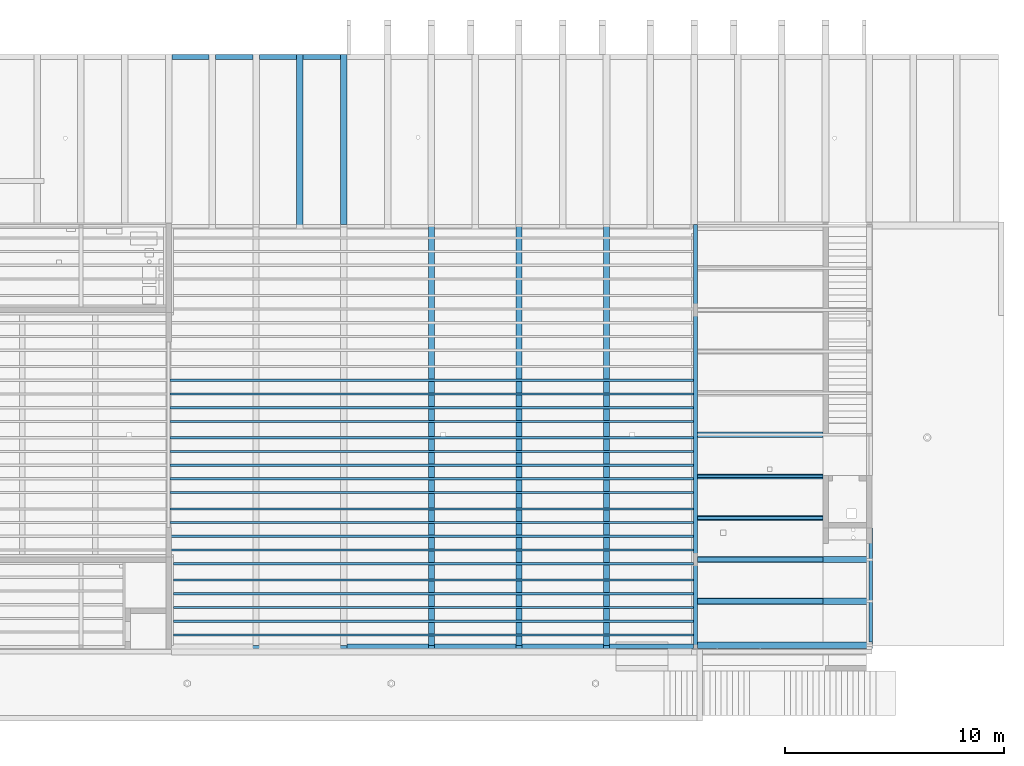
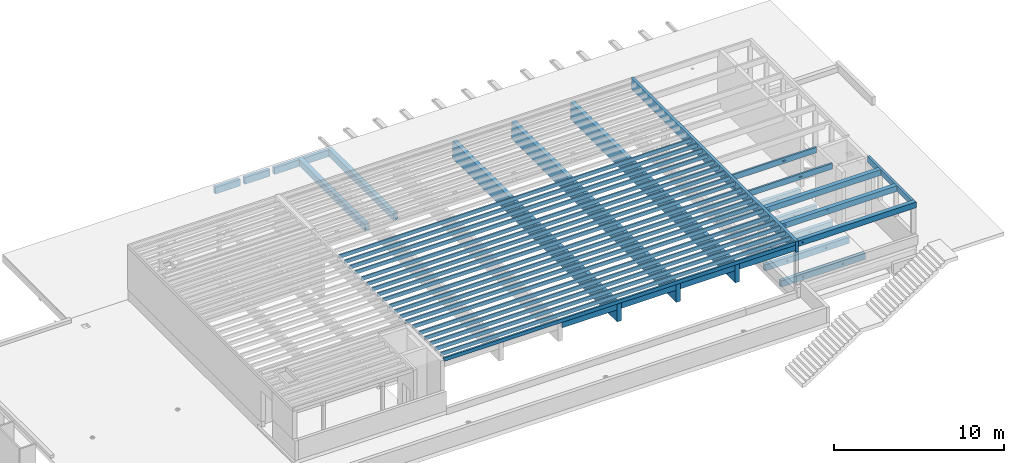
# One storey, part 3 of 14: 45 beams.
"""IFC2X3 building model written with IfcOpenShell, lengths in metres."""

from ifc_helpers import new_model, entity, si_unit, converted_unit, direction, frame, frame_2d, origin, origin_2d_with_axis, place, context, subcontext, project, spatial, rectangle, circle, extrude, boolean, material, type_object, element, save


model = new_model("IFC2X3")

# Units and contexts
model_context = context("Model", 3, precision=1e-05, world=frame((30.086303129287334, 2.687674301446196, 462.0)), true_north=direction((0.19008937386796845, 0.9817667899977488)))
body_context = subcontext(model_context, "Body", "Model", "MODEL_VIEW")
ifc_project = project(units=[si_unit("LENGTHUNIT", "METRE"), si_unit("AREAUNIT", "SQUARE_METRE"), converted_unit("PLANEANGLEUNIT", "DEGREE", entity("IfcPlaneAngleMeasure", 0.017453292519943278), si_unit("PLANEANGLEUNIT", "RADIAN"), dimensions=[0, 0, 0, 0, 0, 0, 0]), si_unit("VOLUMEUNIT", "CUBIC_METRE")], contexts=[model_context])

# Site, building, storey
site_placement = place(None, origin())
site = spatial("IfcSite", under=ifc_project, at=site_placement, Name="Default", CompositionType="ELEMENT")
building_placement = place(site_placement, origin())
building = spatial("IfcBuilding", under=site, at=building_placement, CompositionType="ELEMENT")
storey_placement = place(building_placement, origin())
storey = spatial("IfcBuildingStorey", under=building, at=storey_placement, Name="FB_E00_OKFB", CompositionType="ELEMENT", Elevation=0.0)

# Beams
ifc_material_1 = material(Name="WS_TIMBER_GLT_0°")
beam_type_1 = type_object("IfcBeamType", Name="WS_TBM_GLT:TBM_GLT_280/1280", PredefinedType="BEAM")
beam_1_placement = place(storey_placement, frame((76.1053391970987, -1.334602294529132, 7.779999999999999), z_axis=(0.0, 0.0, 1.0), x_axis=(0.0, -1.0, 0.0)))
element("IfcBeam", 1, at=beam_1_placement, inside=storey, type_object=beam_type_1, material=ifc_material_1, Name="WS_TBM_GLT:TBM_GLT_280/1280", ObjectType="WS_TBM_GLT:TBM_GLT_280/1280", context=body_context, shape_type="SweptSolid", body=[
    boolean("DIFFERENCE", extrude(rectangle(XDim=1.2800000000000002, YDim=0.279999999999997, at=frame_2d((-4.3298697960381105e-15, 5.551115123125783e-16), x_axis=(0.0, 1.0))), frame((-0.0999999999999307, 0.0, -0.6400000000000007), z_axis=(1.0, 0.0, 0.0), x_axis=(0.0, 1.0, 0.0)), (0.0, 0.0, 1.0), 19.350049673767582), extrude(circle(Radius=0.059999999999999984, at=frame_2d((0.0, 3.573461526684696e-14), x_axis=(1.0, 0.0))), frame((11.065049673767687, -0.1399999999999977, -0.30999999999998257), z_axis=(0.0, 1.0, 0.0), x_axis=(1.0, 0.0, 0.0)), (0.0, 0.0, 1.0), 0.279999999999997)),
])
beam_2_placement = place(storey_placement, frame((80.10533919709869, -1.3346022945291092, 7.779999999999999), z_axis=(0.0, 0.0, 1.0), x_axis=(0.0, -1.0, 0.0)))
element("IfcBeam", 2, at=beam_2_placement, inside=storey, type_object=beam_type_1, material=ifc_material_1, Name="WS_TBM_GLT:TBM_GLT_280/1280", ObjectType="WS_TBM_GLT:TBM_GLT_280/1280", context=body_context, shape_type="SweptSolid", body=[
    boolean("DIFFERENCE", extrude(rectangle(XDim=1.2800000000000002, YDim=0.28000000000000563, at=frame_2d((0.0, 5.551115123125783e-16), x_axis=(0.0, 1.0))), frame((-0.0999999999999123, 0.0, -0.6400000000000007), z_axis=(1.0, 0.0, 0.0), x_axis=(0.0, 1.0, 0.0)), (0.0, 0.0, 1.0), 19.35004967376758), extrude(circle(Radius=0.059999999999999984, at=frame_2d((0.0, 1.0828671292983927e-15), x_axis=(1.0, 0.0))), frame((11.065049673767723, 0.14000000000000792, -0.30999999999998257), z_axis=(0.0, -1.0, 0.0), x_axis=(1.0, 0.0, 0.0)), (0.0, 0.0, 1.0), 0.28000000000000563)),
])
beam_3_placement = place(storey_placement, frame((72.10533919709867, -1.33460229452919, 7.779999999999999), z_axis=(0.0, 0.0, 1.0), x_axis=(0.0, -1.0, 0.0)))
element("IfcBeam", 3, at=beam_3_placement, inside=storey, type_object=beam_type_1, material=ifc_material_1, Name="WS_TBM_GLT:TBM_GLT_280/1280", ObjectType="WS_TBM_GLT:TBM_GLT_280/1280", context=body_context, shape_type="SweptSolid", body=[
    boolean("DIFFERENCE", extrude(rectangle(XDim=1.2800000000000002, YDim=0.279999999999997, at=frame_2d((4.3298697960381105e-15, 5.551115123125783e-16), x_axis=(0.0, 1.0))), frame((-0.09999999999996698, 0.0, -0.6400000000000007), z_axis=(1.0, 0.0, 0.0), x_axis=(0.0, 1.0, 0.0)), (0.0, 0.0, 1.0), 19.35004967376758), extrude(circle(Radius=0.059999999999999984, at=frame_2d((0.0, 1.0828671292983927e-15), x_axis=(1.0, 0.0))), frame((9.5000459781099, 0.13999999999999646, -0.30999999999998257), z_axis=(0.0, -1.0, 0.0), x_axis=(1.0, 0.0, 0.0)), (0.0, 0.0, 1.0), 0.279999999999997)),
])
beam_type_2 = type_object("IfcBeamType", Name="WS_TBM_GLT:TBM_GLT_300/480", PredefinedType="BEAM")
beam_4_placement = place(storey_placement, frame((68.10533735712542, 6.420351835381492, 3.935), z_axis=(0.0, 0.0, 1.0), x_axis=(0.0, -1.0, 0.0)))
element("IfcBeam", 4, at=beam_4_placement, inside=storey, type_object=beam_type_2, material=ifc_material_1, Name="WS_TBM_GLT:TBM_GLT_300/480", ObjectType="WS_TBM_GLT:TBM_GLT_300/480", context=body_context, shape_type="SweptSolid", body=[
    extrude(rectangle(XDim=0.4799999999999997, YDim=0.3000000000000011, at=frame_2d((2.7755575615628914e-16, 0.0), x_axis=(1.0, 0.0))), frame((-0.10999999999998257, 0.0, -0.23999999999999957), z_axis=(1.0, 0.0, 0.0), x_axis=(0.0, 0.0, -1.0)), (0.0, 0.0, 1.0), 7.764954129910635),
])
beam_5_placement = place(storey_placement, frame((66.1053387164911, 6.4203518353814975, 3.935), z_axis=(0.0, 0.0, 1.0), x_axis=(0.0, -1.0, 0.0)))
element("IfcBeam", 5, at=beam_5_placement, inside=storey, type_object=beam_type_2, material=ifc_material_1, Name="WS_TBM_GLT:TBM_GLT_300/480", ObjectType="WS_TBM_GLT:TBM_GLT_300/480", context=body_context, shape_type="SweptSolid", body=[
    extrude(rectangle(XDim=0.4799999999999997, YDim=0.3000000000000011, at=frame_2d((2.7755575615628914e-16, 0.0), x_axis=(1.0, 0.0))), frame((-0.10999999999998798, 0.0, -0.23999999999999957), z_axis=(1.0, 0.0, 0.0), x_axis=(0.0, 0.0, -1.0)), (0.0, 0.0, 1.0), 7.9249541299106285),
])
beam_type_3 = type_object("IfcBeamType", Name="WS_TBM_GLT:TBM_GLT_220/480", PredefinedType="BEAM")
beam_6_placement = place(storey_placement, frame((60.10533735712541, 6.420351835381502, 3.935)))
element("IfcBeam", 6, at=beam_6_placement, inside=storey, type_object=beam_type_3, material=ifc_material_1, Name="WS_TBM_GLT:TBM_GLT_220/480", ObjectType="WS_TBM_GLT:TBM_GLT_220/480", context=body_context, shape_type="SweptSolid", body=[
    extrude(rectangle(XDim=0.47999999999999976, YDim=0.2199999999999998, at=frame_2d((2.636779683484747e-16, 4.3298697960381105e-15), x_axis=(1.0, 0.0))), frame((0.1500000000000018, 0.0, -0.23999999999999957), z_axis=(1.0, 0.0, 0.0), x_axis=(0.0, 0.0, -1.0)), (0.0, 0.0, 1.0), 1.7000013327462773),
])
beam_7_placement = place(storey_placement, frame((62.105338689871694, 6.420351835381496, 3.935)))
element("IfcBeam", 7, at=beam_7_placement, inside=storey, type_object=beam_type_3, material=ifc_material_1, Name="WS_TBM_GLT:TBM_GLT_220/480", ObjectType="WS_TBM_GLT:TBM_GLT_220/480", context=body_context, shape_type="SweptSolid", body=[
    extrude(rectangle(XDim=0.47999999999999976, YDim=0.2199999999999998, at=frame_2d((2.636779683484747e-16, 4.3298697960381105e-15), x_axis=(1.0, 0.0))), frame((0.1500000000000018, 0.0, -0.23999999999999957), z_axis=(1.0, 0.0, 0.0), x_axis=(0.0, 0.0, -1.0)), (0.0, 0.0, 1.0), 1.699998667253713),
])
beam_8_placement = place(storey_placement, frame((64.10533735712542, 6.420351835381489, 3.935)))
element("IfcBeam", 8, at=beam_8_placement, inside=storey, type_object=beam_type_3, material=ifc_material_1, Name="WS_TBM_GLT:TBM_GLT_220/480", ObjectType="WS_TBM_GLT:TBM_GLT_220/480", context=body_context, shape_type="SweptSolid", body=[
    extrude(rectangle(XDim=0.47999999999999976, YDim=0.2199999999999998, at=frame_2d((2.636779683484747e-16, 4.3298697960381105e-15), x_axis=(1.0, 0.0))), frame((0.1500000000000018, 0.0, -0.23999999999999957), z_axis=(1.0, 0.0, 0.0), x_axis=(0.0, 0.0, -1.0)), (0.0, 0.0, 1.0), 1.700001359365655),
])
beam_9_placement = place(storey_placement, frame((66.1053387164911, 6.420351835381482, 3.935)))
element("IfcBeam", 9, at=beam_9_placement, inside=storey, type_object=beam_type_3, material=ifc_material_1, Name="WS_TBM_GLT:TBM_GLT_220/480", ObjectType="WS_TBM_GLT:TBM_GLT_220/480", context=body_context, shape_type="SweptSolid", body=[
    extrude(rectangle(XDim=0.47999999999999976, YDim=0.2199999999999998, at=frame_2d((2.636779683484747e-16, 4.3298697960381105e-15), x_axis=(1.0, 0.0))), frame((0.1500000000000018, 0.0, -0.23999999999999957), z_axis=(1.0, 0.0, 0.0), x_axis=(0.0, 0.0, -1.0)), (0.0, 0.0, 1.0), 1.6999986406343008),
])
beam_type_4 = type_object("IfcBeamType", Name="WS_TBM_GLT:TBM_GLT_240/440", PredefinedType="BEAM")
beam_10_placement = place(storey_placement, frame((90.10533691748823, -10.834648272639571, 3.8950000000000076), z_axis=(0.0, 0.0, 1.0), x_axis=(-1.0, 0.0, 0.0)))
element("IfcBeam", 10, at=beam_10_placement, inside=storey, type_object=beam_type_4, material=ifc_material_1, Name="WS_TBM_GLT:TBM_GLT_240/440", ObjectType="WS_TBM_GLT:TBM_GLT_240/440", context=body_context, shape_type="SweptSolid", body=[
    boolean("DIFFERENCE", boolean("DIFFERENCE", extrude(rectangle(XDim=0.4399999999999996, YDim=0.24000000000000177, at=frame_2d((-9.749145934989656e-15, 5.412337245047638e-16), x_axis=(0.0, 1.0))), frame((0.12499974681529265, 0.0, -0.22000000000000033), z_axis=(1.0, 0.0, 0.0), x_axis=(0.0, 1.0, 0.0)), (0.0, 0.0, 1.0), 5.724997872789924), extrude(rectangle(XDim=0.1, YDim=0.0999999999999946, at=frame_2d((8.659739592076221e-15, 0.0), x_axis=(0.0, 1.0))), frame((4.335938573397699, 0.12000000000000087, -0.22000000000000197), z_axis=(0.0, -1.0, 0.0), x_axis=(-1.0, 0.0, 0.0)), (0.0, 0.0, 1.0), 0.23999999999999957)), extrude(rectangle(XDim=0.1, YDim=0.0999999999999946, at=frame_2d((-8.659739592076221e-15, 0.0), x_axis=(0.0, 1.0))), frame((1.6777916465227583, 0.12000000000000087, -0.22000000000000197), z_axis=(0.0, -1.0, 0.0), x_axis=(-1.0, 0.0, 0.0)), (0.0, 0.0, 1.0), 0.23999999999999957)),
])
beam_11_placement = place(storey_placement, frame((90.10533691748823, -12.734648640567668, 3.8950000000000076), z_axis=(0.0, 0.0, 1.0), x_axis=(-1.0, 0.0, 0.0)))
element("IfcBeam", 11, at=beam_11_placement, inside=storey, type_object=beam_type_4, material=ifc_material_1, Name="WS_TBM_GLT:TBM_GLT_240/440", ObjectType="WS_TBM_GLT:TBM_GLT_240/440", context=body_context, shape_type="SweptSolid", body=[
    boolean("DIFFERENCE", boolean("DIFFERENCE", extrude(rectangle(XDim=0.4399999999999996, YDim=0.24000000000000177, at=frame_2d((-9.749145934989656e-15, 5.412337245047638e-16), x_axis=(0.0, 1.0))), frame((0.12499976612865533, 0.0, -0.22000000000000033), z_axis=(1.0, 0.0, 0.0), x_axis=(0.0, 1.0, 0.0)), (0.0, 0.0, 1.0), 5.724997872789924), extrude(rectangle(XDim=0.1, YDim=0.0999999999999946, at=frame_2d((8.659739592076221e-15, 0.0), x_axis=(0.0, 1.0))), frame((4.335938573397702, 0.12000000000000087, -0.22000000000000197), z_axis=(0.0, -1.0, 0.0), x_axis=(-1.0, 0.0, 0.0)), (0.0, 0.0, 1.0), 0.23999999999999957)), extrude(rectangle(XDim=0.1, YDim=0.0999999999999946, at=frame_2d((-8.659739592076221e-15, 0.0), x_axis=(0.0, 1.0))), frame((1.6777916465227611, 0.12000000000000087, -0.22000000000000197), z_axis=(0.0, -1.0, 0.0), x_axis=(-1.0, 0.0, 0.0)), (0.0, 0.0, 1.0), 0.23999999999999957)),
])
beam_12_placement = place(storey_placement, frame((90.10533691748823, -14.634649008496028, 3.8950000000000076), z_axis=(0.0, 0.0, 1.0), x_axis=(-1.0, 0.0, 0.0)))
element("IfcBeam", 12, at=beam_12_placement, inside=storey, type_object=beam_type_4, material=ifc_material_1, Name="WS_TBM_GLT:TBM_GLT_240/440", ObjectType="WS_TBM_GLT:TBM_GLT_240/440", context=body_context, shape_type="SweptSolid", body=[
    boolean("DIFFERENCE", boolean("DIFFERENCE", extrude(rectangle(XDim=0.4399999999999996, YDim=0.24000000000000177, at=frame_2d((-9.749145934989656e-15, 5.412337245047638e-16), x_axis=(0.0, 1.0))), frame((0.12499978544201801, 0.0, -0.22000000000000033), z_axis=(1.0, 0.0, 0.0), x_axis=(0.0, 1.0, 0.0)), (0.0, 0.0, 1.0), 5.724997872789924), extrude(rectangle(XDim=0.1, YDim=0.0999999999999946, at=frame_2d((8.659739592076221e-15, -2.706168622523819e-16), x_axis=(0.0, 1.0))), frame((4.335938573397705, 0.12000000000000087, -0.22000000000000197), z_axis=(0.0, -1.0, 0.0), x_axis=(-1.0, 0.0, 0.0)), (0.0, 0.0, 1.0), 0.23999999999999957)), extrude(rectangle(XDim=0.1, YDim=0.0999999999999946, at=frame_2d((-8.659739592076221e-15, 0.0), x_axis=(0.0, 1.0))), frame((1.6777916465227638, 0.12000000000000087, -0.22000000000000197), z_axis=(0.0, -1.0, 0.0), x_axis=(-1.0, 0.0, 0.0)), (0.0, 0.0, 1.0), 0.23999999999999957)),
])
beam_13_placement = place(storey_placement, frame((90.10533691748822, -16.53464801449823, 3.8950000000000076), z_axis=(0.0, 0.0, 1.0), x_axis=(-1.0, 0.0, 0.0)))
element("IfcBeam", 13, at=beam_13_placement, inside=storey, type_object=beam_type_4, material=ifc_material_1, Name="WS_TBM_GLT:TBM_GLT_240/440", ObjectType="WS_TBM_GLT:TBM_GLT_240/440", context=body_context, shape_type="SweptSolid", body=[
    boolean("DIFFERENCE", boolean("DIFFERENCE", extrude(rectangle(XDim=0.44000000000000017, YDim=0.2399999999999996, at=frame_2d((-7.5842110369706e-15, 2.636779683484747e-16), x_axis=(0.0, 1.0))), frame((0.12499980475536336, 0.0, -0.22000000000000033), z_axis=(1.0, 0.0, 0.0), x_axis=(0.0, 1.0, 0.0)), (0.0, 0.0, 1.0), 5.724997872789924), extrude(rectangle(XDim=0.1, YDim=0.0999999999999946, at=frame_2d((8.659739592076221e-15, 0.0), x_axis=(0.0, 1.0))), frame((4.335938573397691, 0.12000000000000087, -0.22000000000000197), z_axis=(0.0, -1.0, 0.0), x_axis=(-1.0, 0.0, 0.0)), (0.0, 0.0, 1.0), 0.23999999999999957)), extrude(rectangle(XDim=0.1, YDim=0.0999999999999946, at=frame_2d((-8.659739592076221e-15, 0.0), x_axis=(0.0, 1.0))), frame((1.6777916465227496, 0.12000000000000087, -0.22000000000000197), z_axis=(0.0, -1.0, 0.0), x_axis=(-1.0, 0.0, 0.0)), (0.0, 0.0, 1.0), 0.23999999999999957)),
])
beam_14_placement = place(storey_placement, frame((90.10533691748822, -18.43464974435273, 3.8950000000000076), z_axis=(0.0, 0.0, 1.0), x_axis=(-1.0, 0.0, 0.0)))
element("IfcBeam", 14, at=beam_14_placement, inside=storey, type_object=beam_type_4, material=ifc_material_1, Name="WS_TBM_GLT:TBM_GLT_240/440", ObjectType="WS_TBM_GLT:TBM_GLT_240/440", context=body_context, shape_type="SweptSolid", body=[
    boolean("DIFFERENCE", boolean("DIFFERENCE", extrude(rectangle(XDim=0.44000000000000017, YDim=0.2399999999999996, at=frame_2d((-9.749145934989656e-15, 2.636779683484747e-16), x_axis=(0.0, 1.0))), frame((0.12499982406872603, 0.0, -0.22000000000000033), z_axis=(1.0, 0.0, 0.0), x_axis=(0.0, 1.0, 0.0)), (0.0, 0.0, 1.0), 5.724997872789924), extrude(rectangle(XDim=0.1, YDim=0.0999999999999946, at=frame_2d((-8.659739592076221e-15, 0.0), x_axis=(0.0, 1.0))), frame((4.335938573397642, 0.12000000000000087, -0.22000000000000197), z_axis=(0.0, -1.0, 0.0), x_axis=(-1.0, 0.0, 0.0)), (0.0, 0.0, 1.0), 0.23999999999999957)), extrude(rectangle(XDim=0.1, YDim=0.0999999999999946, at=frame_2d((8.659739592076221e-15, 0.0), x_axis=(0.0, 1.0))), frame((1.6777916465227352, 0.12000000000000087, -0.22000000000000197), z_axis=(0.0, -1.0, 0.0), x_axis=(-1.0, 0.0, 0.0)), (0.0, 0.0, 1.0), 0.23999999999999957)),
])
ifc_material_2 = material(Name="WS_TIMBER")
beam_type_5 = type_object("IfcBeamType", Name="WS_TBM_KVH:TBM_KVH_100/260", PredefinedType="BEAM")
beam_15_placement = place(storey_placement, frame((84.16533735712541, -8.347106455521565, 8.04), z_axis=(0.0, 0.0, 1.0), x_axis=(-1.0, 0.0, 0.0)))
element("IfcBeam", 15, at=beam_15_placement, inside=storey, type_object=beam_type_5, material=ifc_material_2, Name="WS_TBM_KVH:TBM_KVH_100/260", ObjectType="WS_TBM_KVH:TBM_KVH_100/260", context=body_context, shape_type="SweptSolid", body=[
    extrude(rectangle(XDim=0.26000000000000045, YDim=0.09999999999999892, at=frame_2d((5.412337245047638e-16, 7.688294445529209e-14), x_axis=(1.0, 0.0))), frame((0.09000000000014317, 0.0, -0.1299999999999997), z_axis=(1.0, 0.0, 0.0), x_axis=(0.0, 0.0, -1.0)), (0.0, 0.0, 1.0), 23.909999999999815),
])
beam_16_placement = place(storey_placement, frame((84.16533735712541, -8.972106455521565, 8.04), z_axis=(0.0, 0.0, 1.0), x_axis=(-1.0, 0.0, 0.0)))
element("IfcBeam", 16, at=beam_16_placement, inside=storey, type_object=beam_type_5, material=ifc_material_2, Name="WS_TBM_KVH:TBM_KVH_100/260", ObjectType="WS_TBM_KVH:TBM_KVH_100/260", context=body_context, shape_type="SweptSolid", body=[
    extrude(rectangle(XDim=0.26000000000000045, YDim=0.09999999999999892, at=frame_2d((5.412337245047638e-16, 7.796541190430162e-14), x_axis=(1.0, 0.0))), frame((0.09000000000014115, 0.0, -0.1299999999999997), z_axis=(1.0, 0.0, 0.0), x_axis=(0.0, 0.0, -1.0)), (0.0, 0.0, 1.0), 23.909999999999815),
])
beam_17_placement = place(storey_placement, frame((84.16533735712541, -9.597106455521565, 8.04), z_axis=(0.0, 0.0, 1.0), x_axis=(-1.0, 0.0, 0.0)))
element("IfcBeam", 17, at=beam_17_placement, inside=storey, type_object=beam_type_5, material=ifc_material_2, Name="WS_TBM_KVH:TBM_KVH_100/260", ObjectType="WS_TBM_KVH:TBM_KVH_100/260", context=body_context, shape_type="SweptSolid", body=[
    extrude(rectangle(XDim=0.26000000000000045, YDim=0.09999999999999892, at=frame_2d((5.412337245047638e-16, 7.796541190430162e-14), x_axis=(1.0, 0.0))), frame((0.09000000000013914, 0.0, -0.1299999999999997), z_axis=(1.0, 0.0, 0.0), x_axis=(0.0, 0.0, -1.0)), (0.0, 0.0, 1.0), 23.909999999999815),
])
beam_18_placement = place(storey_placement, frame((84.16533735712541, -10.222106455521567, 8.04), z_axis=(0.0, 0.0, 1.0), x_axis=(-1.0, 0.0, 0.0)))
element("IfcBeam", 18, at=beam_18_placement, inside=storey, type_object=beam_type_5, material=ifc_material_2, Name="WS_TBM_KVH:TBM_KVH_100/260", ObjectType="WS_TBM_KVH:TBM_KVH_100/260", context=body_context, shape_type="SweptSolid", body=[
    extrude(rectangle(XDim=0.26000000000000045, YDim=0.09999999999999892, at=frame_2d((5.412337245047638e-16, 7.796541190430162e-14), x_axis=(1.0, 0.0))), frame((0.09000000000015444, 0.0, -0.1299999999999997), z_axis=(1.0, 0.0, 0.0), x_axis=(0.0, 0.0, -1.0)), (0.0, 0.0, 1.0), 23.909999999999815),
])
beam_19_placement = place(storey_placement, frame((84.16533735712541, -10.972106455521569, 8.04), z_axis=(0.0, 0.0, 1.0), x_axis=(-1.0, 0.0, 0.0)))
element("IfcBeam", 19, at=beam_19_placement, inside=storey, type_object=beam_type_5, material=ifc_material_2, Name="WS_TBM_KVH:TBM_KVH_100/260", ObjectType="WS_TBM_KVH:TBM_KVH_100/260", context=body_context, shape_type="SweptSolid", body=[
    extrude(rectangle(XDim=0.26000000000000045, YDim=0.09999999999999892, at=frame_2d((5.412337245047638e-16, 7.796541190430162e-14), x_axis=(1.0, 0.0))), frame((0.0900000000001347, 0.0, -0.1299999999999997), z_axis=(1.0, 0.0, 0.0), x_axis=(0.0, 0.0, -1.0)), (0.0, 0.0, 1.0), 23.909999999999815),
])
beam_20_placement = place(storey_placement, frame((84.16533735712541, -11.597106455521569, 8.04), z_axis=(0.0, 0.0, 1.0), x_axis=(-1.0, 0.0, 0.0)))
element("IfcBeam", 20, at=beam_20_placement, inside=storey, type_object=beam_type_5, material=ifc_material_2, Name="WS_TBM_KVH:TBM_KVH_100/260", ObjectType="WS_TBM_KVH:TBM_KVH_100/260", context=body_context, shape_type="SweptSolid", body=[
    extrude(rectangle(XDim=0.26000000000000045, YDim=0.09999999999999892, at=frame_2d((5.412337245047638e-16, 7.796541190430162e-14), x_axis=(1.0, 0.0))), frame((0.09000000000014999, 0.0, -0.1299999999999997), z_axis=(1.0, 0.0, 0.0), x_axis=(0.0, 0.0, -1.0)), (0.0, 0.0, 1.0), 23.909999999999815),
])
beam_21_placement = place(storey_placement, frame((84.16533735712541, -12.22210645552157, 8.04), z_axis=(0.0, 0.0, 1.0), x_axis=(-1.0, 0.0, 0.0)))
element("IfcBeam", 21, at=beam_21_placement, inside=storey, type_object=beam_type_5, material=ifc_material_2, Name="WS_TBM_KVH:TBM_KVH_100/260", ObjectType="WS_TBM_KVH:TBM_KVH_100/260", context=body_context, shape_type="SweptSolid", body=[
    extrude(rectangle(XDim=0.26000000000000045, YDim=0.09999999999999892, at=frame_2d((5.412337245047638e-16, 7.796541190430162e-14), x_axis=(1.0, 0.0))), frame((0.09000000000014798, 0.0, -0.1299999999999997), z_axis=(1.0, 0.0, 0.0), x_axis=(0.0, 0.0, -1.0)), (0.0, 0.0, 1.0), 23.909999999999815),
])
beam_22_placement = place(storey_placement, frame((84.16533735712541, -12.84710645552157, 8.04), z_axis=(0.0, 0.0, 1.0), x_axis=(-1.0, 0.0, 0.0)))
element("IfcBeam", 22, at=beam_22_placement, inside=storey, type_object=beam_type_5, material=ifc_material_2, Name="WS_TBM_KVH:TBM_KVH_100/260", ObjectType="WS_TBM_KVH:TBM_KVH_100/260", context=body_context, shape_type="SweptSolid", body=[
    extrude(rectangle(XDim=0.26000000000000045, YDim=0.09999999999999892, at=frame_2d((5.412337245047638e-16, 7.796541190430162e-14), x_axis=(1.0, 0.0))), frame((0.09000000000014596, 0.0, -0.1299999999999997), z_axis=(1.0, 0.0, 0.0), x_axis=(0.0, 0.0, -1.0)), (0.0, 0.0, 1.0), 23.909999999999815),
])
beam_23_placement = place(storey_placement, frame((84.16533735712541, -13.47210645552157, 8.04), z_axis=(0.0, 0.0, 1.0), x_axis=(-1.0, 0.0, 0.0)))
element("IfcBeam", 23, at=beam_23_placement, inside=storey, type_object=beam_type_5, material=ifc_material_2, Name="WS_TBM_KVH:TBM_KVH_100/260", ObjectType="WS_TBM_KVH:TBM_KVH_100/260", context=body_context, shape_type="SweptSolid", body=[
    extrude(rectangle(XDim=0.26000000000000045, YDim=0.09999999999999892, at=frame_2d((5.412337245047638e-16, 7.796541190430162e-14), x_axis=(1.0, 0.0))), frame((0.09000000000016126, 0.0, -0.1299999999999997), z_axis=(1.0, 0.0, 0.0), x_axis=(0.0, 0.0, -1.0)), (0.0, 0.0, 1.0), 23.909999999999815),
])
beam_24_placement = place(storey_placement, frame((84.16533735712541, -14.222106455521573, 8.04), z_axis=(0.0, 0.0, 1.0), x_axis=(-1.0, 0.0, 0.0)))
element("IfcBeam", 24, at=beam_24_placement, inside=storey, type_object=beam_type_5, material=ifc_material_2, Name="WS_TBM_KVH:TBM_KVH_100/260", ObjectType="WS_TBM_KVH:TBM_KVH_100/260", context=body_context, shape_type="SweptSolid", body=[
    extrude(rectangle(XDim=0.26000000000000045, YDim=0.09999999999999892, at=frame_2d((5.412337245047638e-16, 7.796541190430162e-14), x_axis=(1.0, 0.0))), frame((0.09000000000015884, 0.0, -0.1299999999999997), z_axis=(1.0, 0.0, 0.0), x_axis=(0.0, 0.0, -1.0)), (0.0, 0.0, 1.0), 23.909999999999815),
])
beam_25_placement = place(storey_placement, frame((84.16533735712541, -14.847106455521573, 8.04), z_axis=(0.0, 0.0, 1.0), x_axis=(-1.0, 0.0, 0.0)))
element("IfcBeam", 25, at=beam_25_placement, inside=storey, type_object=beam_type_5, material=ifc_material_2, Name="WS_TBM_KVH:TBM_KVH_100/260", ObjectType="WS_TBM_KVH:TBM_KVH_100/260", context=body_context, shape_type="SweptSolid", body=[
    extrude(rectangle(XDim=0.26000000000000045, YDim=0.09999999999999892, at=frame_2d((5.412337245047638e-16, 7.796541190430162e-14), x_axis=(1.0, 0.0))), frame((0.09000000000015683, 0.0, -0.1299999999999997), z_axis=(1.0, 0.0, 0.0), x_axis=(0.0, 0.0, -1.0)), (0.0, 0.0, 1.0), 23.909999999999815),
])
beam_26_placement = place(storey_placement, frame((84.16533735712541, -15.472106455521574, 8.04), z_axis=(0.0, 0.0, 1.0), x_axis=(-1.0, 0.0, 0.0)))
element("IfcBeam", 26, at=beam_26_placement, inside=storey, type_object=beam_type_5, material=ifc_material_2, Name="WS_TBM_KVH:TBM_KVH_100/260", ObjectType="WS_TBM_KVH:TBM_KVH_100/260", context=body_context, shape_type="SweptSolid", body=[
    extrude(rectangle(XDim=0.26000000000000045, YDim=0.09999999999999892, at=frame_2d((5.412337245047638e-16, 7.580047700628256e-14), x_axis=(1.0, 0.0))), frame((0.09000000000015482, 0.0, -0.1299999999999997), z_axis=(1.0, 0.0, 0.0), x_axis=(0.0, 0.0, -1.0)), (0.0, 0.0, 1.0), 23.909999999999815),
])
beam_27_placement = place(storey_placement, frame((84.16533735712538, -16.097106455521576, 8.04), z_axis=(0.0, 0.0, 1.0), x_axis=(-1.0, 0.0, 0.0)))
element("IfcBeam", 27, at=beam_27_placement, inside=storey, type_object=beam_type_5, material=ifc_material_2, Name="WS_TBM_KVH:TBM_KVH_100/260", ObjectType="WS_TBM_KVH:TBM_KVH_100/260", context=body_context, shape_type="SweptSolid", body=[
    extrude(rectangle(XDim=0.26000000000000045, YDim=0.09999999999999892, at=frame_2d((5.412337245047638e-16, 7.796541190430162e-14), x_axis=(1.0, 0.0))), frame((0.09000000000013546, 0.0, -0.1299999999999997), z_axis=(1.0, 0.0, 0.0), x_axis=(0.0, 0.0, -1.0)), (0.0, 0.0, 1.0), 23.909999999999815),
])
beam_28_placement = place(storey_placement, frame((84.16533735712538, -19.972106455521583, 8.04), z_axis=(0.0, 0.0, 1.0), x_axis=(-1.0, 0.0, 0.0)))
element("IfcBeam", 28, at=beam_28_placement, inside=storey, type_object=beam_type_5, material=ifc_material_2, Name="WS_TBM_KVH:TBM_KVH_100/260", ObjectType="WS_TBM_KVH:TBM_KVH_100/260", context=body_context, shape_type="SweptSolid", body=[
    extrude(rectangle(XDim=0.26000000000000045, YDim=0.10000000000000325, at=frame_2d((5.412337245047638e-16, 7.796541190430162e-14), x_axis=(1.0, 0.0))), frame((0.09000000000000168, 0.0, -0.1299999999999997), z_axis=(1.0, 0.0, 0.0), x_axis=(0.0, 0.0, -1.0)), (0.0, 0.0, 1.0), 23.744999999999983),
])
beam_29_placement = place(storey_placement, frame((84.16533735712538, -19.347106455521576, 8.04), z_axis=(0.0, 0.0, 1.0), x_axis=(-1.0, 0.0, 0.0)))
element("IfcBeam", 29, at=beam_29_placement, inside=storey, type_object=beam_type_5, material=ifc_material_2, Name="WS_TBM_KVH:TBM_KVH_100/260", ObjectType="WS_TBM_KVH:TBM_KVH_100/260", context=body_context, shape_type="SweptSolid", body=[
    extrude(rectangle(XDim=0.26000000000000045, YDim=0.09999999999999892, at=frame_2d((5.412337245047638e-16, 7.580047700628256e-14), x_axis=(1.0, 0.0))), frame((0.09000000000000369, 0.0, -0.1299999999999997), z_axis=(1.0, 0.0, 0.0), x_axis=(0.0, 0.0, -1.0)), (0.0, 0.0, 1.0), 23.744999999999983),
])
beam_30_placement = place(storey_placement, frame((84.16533735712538, -18.722106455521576, 8.04), z_axis=(0.0, 0.0, 1.0), x_axis=(-1.0, 0.0, 0.0)))
element("IfcBeam", 30, at=beam_30_placement, inside=storey, type_object=beam_type_5, material=ifc_material_2, Name="WS_TBM_KVH:TBM_KVH_100/260", ObjectType="WS_TBM_KVH:TBM_KVH_100/260", context=body_context, shape_type="SweptSolid", body=[
    extrude(rectangle(XDim=0.26000000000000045, YDim=0.09999999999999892, at=frame_2d((5.412337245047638e-16, 7.796541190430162e-14), x_axis=(1.0, 0.0))), frame((0.08999999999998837, 0.0, -0.1299999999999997), z_axis=(1.0, 0.0, 0.0), x_axis=(0.0, 0.0, -1.0)), (0.0, 0.0, 1.0), 23.744999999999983),
])
beam_31_placement = place(storey_placement, frame((84.16533735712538, -18.097106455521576, 8.04), z_axis=(0.0, 0.0, 1.0), x_axis=(-1.0, 0.0, 0.0)))
element("IfcBeam", 31, at=beam_31_placement, inside=storey, type_object=beam_type_5, material=ifc_material_2, Name="WS_TBM_KVH:TBM_KVH_100/260", ObjectType="WS_TBM_KVH:TBM_KVH_100/260", context=body_context, shape_type="SweptSolid", body=[
    extrude(rectangle(XDim=0.26000000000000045, YDim=0.09999999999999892, at=frame_2d((5.412337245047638e-16, 7.580047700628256e-14), x_axis=(1.0, 0.0))), frame((0.08999999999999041, 0.0, -0.1299999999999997), z_axis=(1.0, 0.0, 0.0), x_axis=(0.0, 0.0, -1.0)), (0.0, 0.0, 1.0), 23.744999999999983),
])
beam_32_placement = place(storey_placement, frame((84.16533735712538, -17.472106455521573, 8.04), z_axis=(0.0, 0.0, 1.0), x_axis=(-1.0, 0.0, 0.0)))
element("IfcBeam", 32, at=beam_32_placement, inside=storey, type_object=beam_type_5, material=ifc_material_2, Name="WS_TBM_KVH:TBM_KVH_100/260", ObjectType="WS_TBM_KVH:TBM_KVH_100/260", context=body_context, shape_type="SweptSolid", body=[
    extrude(rectangle(XDim=0.26000000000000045, YDim=0.09999999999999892, at=frame_2d((5.412337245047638e-16, 7.796541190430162e-14), x_axis=(1.0, 0.0))), frame((0.08999999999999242, 0.0, -0.1299999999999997), z_axis=(1.0, 0.0, 0.0), x_axis=(0.0, 0.0, -1.0)), (0.0, 0.0, 1.0), 23.744999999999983),
])
beam_33_placement = place(storey_placement, frame((84.16533735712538, -16.722106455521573, 8.04), z_axis=(0.0, 0.0, 1.0), x_axis=(-1.0, 0.0, 0.0)))
element("IfcBeam", 33, at=beam_33_placement, inside=storey, type_object=beam_type_5, material=ifc_material_2, Name="WS_TBM_KVH:TBM_KVH_100/260", ObjectType="WS_TBM_KVH:TBM_KVH_100/260", context=body_context, shape_type="SweptSolid", body=[
    extrude(rectangle(XDim=0.26000000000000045, YDim=0.09999999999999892, at=frame_2d((5.412337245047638e-16, 7.796541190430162e-14), x_axis=(1.0, 0.0))), frame((0.08999999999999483, 0.0, -0.1299999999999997), z_axis=(1.0, 0.0, 0.0), x_axis=(0.0, 0.0, -1.0)), (0.0, 0.0, 1.0), 23.744999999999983),
])
beam_type_6 = type_object("IfcBeamType", Name="WS_TBM_GLT:TBM_GLT_120/400", PredefinedType="BEAM")
beam_34_placement = place(storey_placement, frame((89.98033735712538, -12.73464758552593, 8.004999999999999), z_axis=(0.0, 0.0, 1.0), x_axis=(-1.0, 0.0, 0.0)))
element("IfcBeam", 34, at=beam_34_placement, inside=storey, type_object=beam_type_6, material=ifc_material_1, Name="WS_TBM_GLT:TBM_GLT_120/400", ObjectType="WS_TBM_GLT:TBM_GLT_120/400", context=body_context, shape_type="SweptSolid", body=[
    boolean("DIFFERENCE", extrude(rectangle(XDim=0.4, YDim=0.1199999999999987, at=frame_2d((1.9491352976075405e-14, 0.0), x_axis=(0.0, 1.0))), frame((0.0, 0.0, -0.2), z_axis=(1.0, 0.0, 0.0), x_axis=(0.0, 1.0, 0.0)), (0.0, 0.0, 1.0), 5.724999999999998), extrude(rectangle(XDim=0.08000000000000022, YDim=0.2000000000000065, at=frame_2d((-8.659739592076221e-15, -5.412337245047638e-16), x_axis=(0.0, 1.0))), frame((2.1950005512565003, 0.05999999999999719, -0.2), z_axis=(0.0, -1.0, 0.0), x_axis=(-1.0, 0.0, 0.0)), (0.0, 0.0, 1.0), 0.1199999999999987)),
])
beam_35_placement = place(storey_placement, frame((90.10533735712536, -14.634647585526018, 8.004999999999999), z_axis=(0.0, 0.0, 1.0), x_axis=(-1.0, 0.0, 0.0)))
element("IfcBeam", 35, at=beam_35_placement, inside=storey, type_object=beam_type_6, material=ifc_material_1, Name="WS_TBM_GLT:TBM_GLT_120/400", ObjectType="WS_TBM_GLT:TBM_GLT_120/400", context=body_context, shape_type="SweptSolid", body=[
    boolean("DIFFERENCE", extrude(rectangle(XDim=0.4, YDim=0.1199999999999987, at=frame_2d((1.9491352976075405e-14, 0.0), x_axis=(0.0, 1.0))), frame((0.12500000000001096, 0.0, -0.2), z_axis=(1.0, 0.0, 0.0), x_axis=(0.0, 1.0, 0.0)), (0.0, 0.0, 1.0), 5.724999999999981), extrude(rectangle(XDim=0.08000000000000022, YDim=0.2000000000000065, at=frame_2d((8.659739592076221e-15, -5.412337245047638e-16), x_axis=(0.0, 1.0))), frame((2.3200005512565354, 0.06000000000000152, -0.2), z_axis=(0.0, -1.0, 0.0), x_axis=(-1.0, 0.0, 0.0)), (0.0, 0.0, 1.0), 0.1199999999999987)),
])
beam_type_7 = type_object("IfcBeamType", Name="WS_TBM_GLT:TBM_GLT_280/400", PredefinedType="BEAM")
beam_36_placement = place(storey_placement, frame((92.18033733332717, -16.53464716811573, 8.004999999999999), z_axis=(0.0, 0.0, 1.0), x_axis=(-1.0, 0.0, 0.0)))
element("IfcBeam", 36, at=beam_36_placement, inside=storey, type_object=beam_type_7, material=ifc_material_1, Name="WS_TBM_GLT:TBM_GLT_280/400", ObjectType="WS_TBM_GLT:TBM_GLT_280/400", context=body_context, shape_type="SweptSolid", body=[
    boolean("DIFFERENCE", extrude(rectangle(XDim=0.4, YDim=0.28000000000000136, at=frame_2d((2.3828161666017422e-14, 0.0), x_axis=(0.0, 1.0))), frame((0.07999999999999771, 0.0, -0.2), z_axis=(1.0, 0.0, 0.0), x_axis=(0.0, 1.0, 0.0)), (0.0, 0.0, 1.0), 7.844999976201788), extrude(circle(Radius=0.04000000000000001, at=origin_2d_with_axis()), frame((7.635028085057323, -0.1399999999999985, -0.19999999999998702), z_axis=(0.0, 1.0, 0.0), x_axis=(1.0, 0.0, 0.0)), (0.0, 0.0, 1.0), 0.2800000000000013)),
])
beam_37_placement = place(storey_placement, frame((92.18033733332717, -18.434647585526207, 8.004999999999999), z_axis=(0.0, 0.0, 1.0), x_axis=(-1.0, 0.0, 0.0)))
element("IfcBeam", 37, at=beam_37_placement, inside=storey, type_object=beam_type_7, material=ifc_material_1, Name="WS_TBM_GLT:TBM_GLT_280/400", ObjectType="WS_TBM_GLT:TBM_GLT_280/400", context=body_context, shape_type="SweptSolid", body=[
    boolean("DIFFERENCE", extrude(rectangle(XDim=0.4, YDim=0.28000000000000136, at=frame_2d((2.5993096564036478e-14, 0.0), x_axis=(0.0, 1.0))), frame((0.07999999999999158, 0.0, -0.2), z_axis=(1.0, 0.0, 0.0), x_axis=(0.0, 1.0, 0.0)), (0.0, 0.0, 1.0), 7.844999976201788), extrude(circle(Radius=0.04000000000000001, at=frame_2d((0.0, -3.573461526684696e-14), x_axis=(1.0, 0.0))), frame((7.635028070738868, 0.14000000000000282, -0.19999999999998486), z_axis=(0.0, -1.0, 0.0), x_axis=(1.0, 0.0, 0.0)), (0.0, 0.0, 1.0), 0.2800000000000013)),
])
beam_38_placement = place(storey_placement, frame((92.18033733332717, -20.444651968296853, 8.004999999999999), z_axis=(0.0, 0.0, 1.0), x_axis=(-1.0, 0.0, 0.0)))
element("IfcBeam", 38, at=beam_38_placement, inside=storey, type_object=beam_type_7, material=ifc_material_1, Name="WS_TBM_GLT:TBM_GLT_280/400", ObjectType="WS_TBM_GLT:TBM_GLT_280/400", context=body_context, shape_type="SweptSolid", body=[
    boolean("DIFFERENCE", extrude(rectangle(XDim=0.4, YDim=0.27999999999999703, at=frame_2d((2.8158031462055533e-14, 0.0), x_axis=(0.0, 1.0))), frame((-0.07999999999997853, 0.0, -0.2), z_axis=(1.0, 0.0, 0.0), x_axis=(0.0, 1.0, 0.0)), (0.0, 0.0, 1.0), 8.00499997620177), extrude(circle(Radius=0.04000000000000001, at=frame_2d((0.0, -1.0828671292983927e-15), x_axis=(1.0, 0.0))), frame((7.635028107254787, -0.1399999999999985, -0.1999999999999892), z_axis=(0.0, 1.0, 0.0), x_axis=(1.0, 0.0, 0.0)), (0.0, 0.0, 1.0), 0.2800000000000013)),
])
beam_type_8 = type_object("IfcBeamType", Name="WS_TBM_GLT:TBM_GLT_180/800", PredefinedType="BEAM")
beam_39_placement = place(storey_placement, frame((84.16533735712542, -1.2946022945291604, 8.04), z_axis=(0.0, 0.0, 1.0), x_axis=(0.0, -1.0, 0.0)))
element("IfcBeam", 39, at=beam_39_placement, inside=storey, type_object=beam_type_8, material=ifc_material_1, Name="WS_TBM_GLT:TBM_GLT_180/800", ObjectType="WS_TBM_GLT:TBM_GLT_180/800", context=body_context, shape_type="SweptSolid", body=[
    boolean("DIFFERENCE", boolean("DIFFERENCE", boolean("DIFFERENCE", extrude(rectangle(XDim=0.8, YDim=0.17999999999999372, at=frame_2d((0.0, 0.0), x_axis=(0.0, 1.0))), frame((-0.05999999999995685, 0.0, -0.4), z_axis=(1.0, 0.0, 0.0), x_axis=(0.0, 1.0, 0.0)), (0.0, 0.0, 1.0), 19.35004967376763), extrude(rectangle(XDim=0.1, YDim=0.19999999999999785, at=frame_2d((0.0, -5.412337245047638e-16), x_axis=(0.0, 1.0))), frame((13.109886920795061, 0.09000000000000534, -0.48999999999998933), z_axis=(0.0, -1.0, 0.0), x_axis=(-1.0, 0.0, 0.0)), (0.0, 0.0, 1.0), 0.17999999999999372)), extrude(rectangle(XDim=0.1, YDim=0.19999999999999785, at=frame_2d((0.0, 5.412337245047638e-16), x_axis=(0.0, 1.0))), frame((12.109886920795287, 0.09000000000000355, -0.489999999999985), z_axis=(0.0, -1.0, 0.0), x_axis=(-1.0, 0.0, 0.0)), (0.0, 0.0, 1.0), 0.17999999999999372)), extrude(rectangle(XDim=0.20999999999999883, YDim=0.2099999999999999, at=frame_2d((0.0, 5.412337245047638e-16), x_axis=(0.0, 1.0))), frame((11.10488921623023, 0.09000000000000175, -0.3049999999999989), z_axis=(0.0, -1.0, 0.0), x_axis=(-1.0, 0.0, 0.0)), (0.0, 0.0, 1.0), 0.17999999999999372)),
])
beam_type_9 = type_object("IfcBeamType", Name="WS_TBM_GLT:TBM_GLT_200/400", PredefinedType="BEAM")
beam_40_placement = place(storey_placement, frame((68.10533919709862, -20.48465196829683, 7.779999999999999)))
element("IfcBeam", 40, at=beam_40_placement, inside=storey, type_object=beam_type_9, material=ifc_material_1, Name="WS_TBM_GLT:TBM_GLT_200/400", ObjectType="WS_TBM_GLT:TBM_GLT_200/400", context=body_context, shape_type="SweptSolid", body=[
    extrude(rectangle(XDim=0.4, YDim=0.20000000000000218, at=frame_2d((0.0, -2.165628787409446e-14), x_axis=(1.0, 0.0))), frame((0.1400000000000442, 0.0, -0.2), z_axis=(1.0, 0.0, 0.0), x_axis=(0.0, 0.0, -1.0)), (0.0, 0.0, 1.0), 3.719999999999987),
])
beam_41_placement = place(storey_placement, frame((72.1053391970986, -20.484651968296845, 7.779999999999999)))
element("IfcBeam", 41, at=beam_41_placement, inside=storey, type_object=beam_type_9, material=ifc_material_1, Name="WS_TBM_GLT:TBM_GLT_200/400", ObjectType="WS_TBM_GLT:TBM_GLT_200/400", context=body_context, shape_type="SweptSolid", body=[
    extrude(rectangle(XDim=0.4, YDim=0.20000000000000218, at=frame_2d((0.0, -2.165628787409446e-14), x_axis=(1.0, 0.0))), frame((0.14000000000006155, 0.0, -0.2), z_axis=(1.0, 0.0, 0.0), x_axis=(0.0, 0.0, -1.0)), (0.0, 0.0, 1.0), 3.719999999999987),
])
beam_42_placement = place(storey_placement, frame((76.10533919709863, -20.48465196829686, 7.779999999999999)))
element("IfcBeam", 42, at=beam_42_placement, inside=storey, type_object=beam_type_9, material=ifc_material_1, Name="WS_TBM_GLT:TBM_GLT_200/400", ObjectType="WS_TBM_GLT:TBM_GLT_200/400", context=body_context, shape_type="SweptSolid", body=[
    extrude(rectangle(XDim=0.4, YDim=0.20000000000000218, at=frame_2d((0.0, -2.598615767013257e-14), x_axis=(1.0, 0.0))), frame((0.1400000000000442, 0.0, -0.2), z_axis=(1.0, 0.0, 0.0), x_axis=(0.0, 0.0, -1.0)), (0.0, 0.0, 1.0), 3.7199999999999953),
])
beam_43_placement = place(storey_placement, frame((80.1053391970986, -20.48465196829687, 7.779999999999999)))
element("IfcBeam", 43, at=beam_43_placement, inside=storey, type_object=beam_type_9, material=ifc_material_1, Name="WS_TBM_GLT:TBM_GLT_200/400", ObjectType="WS_TBM_GLT:TBM_GLT_200/400", context=body_context, shape_type="SweptSolid", body=[
    extrude(rectangle(XDim=0.4, YDim=0.20000000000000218, at=frame_2d((0.0, -2.165628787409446e-14), x_axis=(1.0, 0.0))), frame((0.14000000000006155, 0.0, -0.2), z_axis=(1.0, 0.0, 0.0), x_axis=(0.0, 0.0, -1.0)), (0.0, 0.0, 1.0), 3.829998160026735),
])
beam_type_10 = type_object("IfcBeamType", Name="WS_TBM_KVH:TBM_KVH_120/260", PredefinedType="BEAM")
beam_44_placement = place(storey_placement, frame((84.16533735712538, -20.52465196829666, 8.04), z_axis=(0.0, 0.0, 1.0), x_axis=(-1.0, 0.0, 0.0)))
element("IfcBeam", 44, at=beam_44_placement, inside=storey, type_object=beam_type_10, material=ifc_material_2, Name="WS_TBM_KVH:TBM_KVH_120/260", ObjectType="WS_TBM_KVH:TBM_KVH_120/260", context=body_context, shape_type="SweptSolid", body=[
    extrude(rectangle(XDim=0.26000000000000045, YDim=0.12000000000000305, at=frame_2d((5.412337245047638e-16, 7.363554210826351e-14), x_axis=(1.0, 0.0))), frame((0.09000000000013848, 0.0, -0.1299999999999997), z_axis=(1.0, 0.0, 0.0), x_axis=(0.0, 0.0, -1.0)), (0.0, 0.0, 1.0), 23.844999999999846),
])
beam_type_11 = type_object("IfcBeamType", Name="WS_TBM_GLT:TBM_GLT_160/400", PredefinedType="BEAM")
beam_45_placement = place(storey_placement, frame((92.18033733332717, -15.084649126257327, 8.005), z_axis=(0.0, 0.0, 1.0), x_axis=(0.0, -1.0, 0.0)))
element("IfcBeam", 45, at=beam_45_placement, inside=storey, type_object=beam_type_11, material=ifc_material_1, Name="WS_TBM_GLT:TBM_GLT_160/400", ObjectType="WS_TBM_GLT:TBM_GLT_160/400", context=body_context, shape_type="SweptSolid", body=[
    extrude(rectangle(XDim=0.4, YDim=0.15999999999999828, at=origin_2d_with_axis()), frame((0.0, 0.0, -0.2), z_axis=(1.0, 0.0, 0.0), x_axis=(0.0, 0.0, -1.0)), (0.0, 0.0, 1.0), 5.220002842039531),
])

save(model, "model.ifc")
